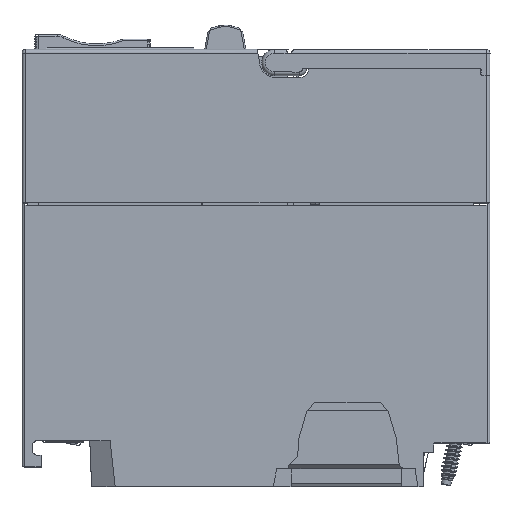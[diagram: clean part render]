
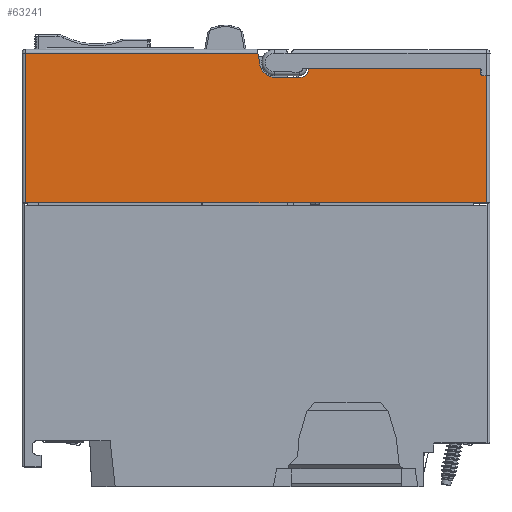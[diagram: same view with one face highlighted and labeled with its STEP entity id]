
A CAD part, top view. The second image highlights one B-rep face of the part: STEP entity #63241.
In plain terms, the highlighted planar face has unit normal (0, 0, 1).
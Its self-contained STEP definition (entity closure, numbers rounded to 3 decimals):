
#55501=DIRECTION('',(1.,0.,0.));
#55502=VECTOR('',#55501,123.);
#55503=CARTESIAN_POINT('',(-61.5,75.8,20.));
#55504=LINE('',#55503,#55502);
#57612=DIRECTION('',(0.174,-0.985,0.));
#57613=VECTOR('',#57612,3.244);
#57614=CARTESIAN_POINT('',(0.497,115.8,20.));
#57615=LINE('',#57614,#57613);
#57616=CARTESIAN_POINT('',(5.,113.3,20.));
#57617=DIRECTION('',(0.,0.,1.));
#57618=DIRECTION('',(-0.985,-0.174,0.));
#57619=AXIS2_PLACEMENT_3D('',#57616,#57617,#57618);
#57621=DIRECTION('',(1.,0.,0.));
#57622=VECTOR('',#57621,7.);
#57623=CARTESIAN_POINT('',(5.,109.3,20.));
#57624=LINE('',#57623,#57622);
#57625=CARTESIAN_POINT('',(12.,111.3,20.));
#57626=DIRECTION('',(0.,0.,1.));
#57627=DIRECTION('',(0.,-1.,0.));
#57628=AXIS2_PLACEMENT_3D('',#57625,#57626,#57627);
#57630=DIRECTION('',(0.,1.,0.));
#57631=VECTOR('',#57630,0.4);
#57632=CARTESIAN_POINT('',(14.,111.3,20.));
#57633=LINE('',#57632,#57631);
#57634=DIRECTION('',(1.,0.,0.));
#57635=VECTOR('',#57634,46.096);
#57636=CARTESIAN_POINT('',(14.,111.7,20.));
#57637=LINE('',#57636,#57635);
#57638=DIRECTION('',(0.087,-0.996,0.));
#57639=VECTOR('',#57638,1.016);
#57640=CARTESIAN_POINT('',(60.096,111.7,20.));
#57641=LINE('',#57640,#57639);
#57642=CARTESIAN_POINT('',(60.5,110.3,20.));
#57643=DIRECTION('',(0.,0.,1.));
#57644=DIRECTION('',(-0.63,0.776,0.));
#57645=AXIS2_PLACEMENT_3D('',#57642,#57643,#57644);
#57647=DIRECTION('',(1.,0.,0.));
#57648=VECTOR('',#57647,1.);
#57649=CARTESIAN_POINT('',(60.5,109.8,20.));
#57650=LINE('',#57649,#57648);
#57661=DIRECTION('',(-1.,0.,0.));
#57662=VECTOR('',#57661,61.997);
#57663=CARTESIAN_POINT('',(0.497,115.8,20.));
#57664=LINE('',#57663,#57662);
#57688=DIRECTION('',(0.,-1.,0.));
#57689=VECTOR('',#57688,40.);
#57690=CARTESIAN_POINT('',(-61.5,115.8,20.));
#57691=LINE('',#57690,#57689);
#57730=DIRECTION('',(0.,1.,0.));
#57731=VECTOR('',#57730,34.);
#57732=CARTESIAN_POINT('',(61.5,75.8,20.));
#57733=LINE('',#57732,#57731);
#59552=CARTESIAN_POINT('',(-61.5,75.8,20.));
#59553=VERTEX_POINT('',#59552);
#59554=CARTESIAN_POINT('',(61.5,75.8,20.));
#59555=VERTEX_POINT('',#59554);
#60116=CARTESIAN_POINT('',(60.5,109.8,20.));
#60117=CARTESIAN_POINT('',(61.5,109.8,20.));
#60118=VERTEX_POINT('',#60116);
#60119=VERTEX_POINT('',#60117);
#60120=CARTESIAN_POINT('',(1.061,112.605,20.));
#60121=CARTESIAN_POINT('',(0.497,115.8,20.));
#60122=VERTEX_POINT('',#60120);
#60123=VERTEX_POINT('',#60121);
#60124=CARTESIAN_POINT('',(5.,109.3,20.));
#60125=VERTEX_POINT('',#60124);
#60126=CARTESIAN_POINT('',(12.,109.3,20.));
#60127=VERTEX_POINT('',#60126);
#60128=CARTESIAN_POINT('',(14.,111.3,20.));
#60129=VERTEX_POINT('',#60128);
#60130=CARTESIAN_POINT('',(14.,111.7,20.));
#60131=VERTEX_POINT('',#60130);
#60132=CARTESIAN_POINT('',(60.096,111.7,20.));
#60133=VERTEX_POINT('',#60132);
#60134=CARTESIAN_POINT('',(60.185,110.688,20.));
#60135=VERTEX_POINT('',#60134);
#60136=CARTESIAN_POINT('',(-61.5,115.8,20.));
#60137=VERTEX_POINT('',#60136);
#63209=CARTESIAN_POINT('',(62.5,116.8,20.));
#63210=DIRECTION('',(0.,0.,-1.));
#63211=DIRECTION('',(-1.,0.,0.));
#63212=AXIS2_PLACEMENT_3D('',#63209,#63210,#63211);
#63213=PLANE('',#63212);
#63215=ORIENTED_EDGE('',*,*,#63214,.T.);
#63217=ORIENTED_EDGE('',*,*,#63216,.T.);
#63219=ORIENTED_EDGE('',*,*,#63218,.T.);
#63221=ORIENTED_EDGE('',*,*,#63220,.T.);
#63223=ORIENTED_EDGE('',*,*,#63222,.T.);
#63225=ORIENTED_EDGE('',*,*,#63224,.T.);
#63227=ORIENTED_EDGE('',*,*,#63226,.T.);
#63229=ORIENTED_EDGE('',*,*,#63228,.T.);
#63231=ORIENTED_EDGE('',*,*,#63230,.T.);
#63233=ORIENTED_EDGE('',*,*,#63232,.F.);
#63234=ORIENTED_EDGE('',*,*,#61381,.F.);
#63236=ORIENTED_EDGE('',*,*,#63235,.F.);
#63238=ORIENTED_EDGE('',*,*,#63237,.F.);
#63239=EDGE_LOOP('',(#63215,#63217,#63219,#63221,#63223,#63225,#63227,#63229,
#63231,#63233,#63234,#63236,#63238));
#63240=FACE_OUTER_BOUND('',#63239,.F.);
#63241=ADVANCED_FACE('',(#63240),#63213,.F.);
#57620=CIRCLE('',#57619,4.);
#57629=CIRCLE('',#57628,2.);
#57646=CIRCLE('',#57645,0.5);
#61381=EDGE_CURVE('',#59553,#59555,#55504,.T.);
#63214=EDGE_CURVE('',#60123,#60122,#57615,.T.);
#63216=EDGE_CURVE('',#60122,#60125,#57620,.T.);
#63218=EDGE_CURVE('',#60125,#60127,#57624,.T.);
#63220=EDGE_CURVE('',#60127,#60129,#57629,.T.);
#63222=EDGE_CURVE('',#60129,#60131,#57633,.T.);
#63224=EDGE_CURVE('',#60131,#60133,#57637,.T.);
#63226=EDGE_CURVE('',#60133,#60135,#57641,.T.);
#63228=EDGE_CURVE('',#60135,#60118,#57646,.T.);
#63230=EDGE_CURVE('',#60118,#60119,#57650,.T.);
#63232=EDGE_CURVE('',#59555,#60119,#57733,.T.);
#63235=EDGE_CURVE('',#60137,#59553,#57691,.T.);
#63237=EDGE_CURVE('',#60123,#60137,#57664,.T.);
